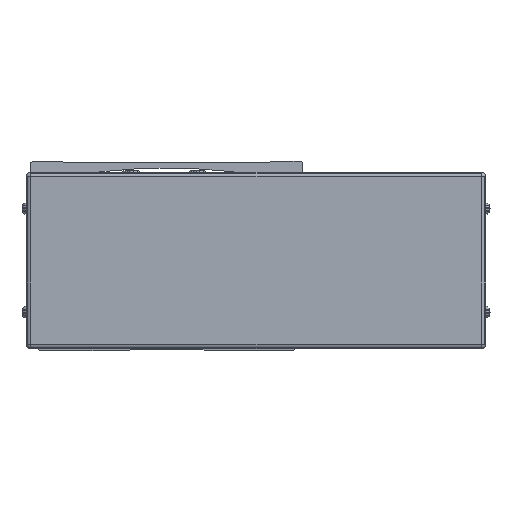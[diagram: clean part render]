
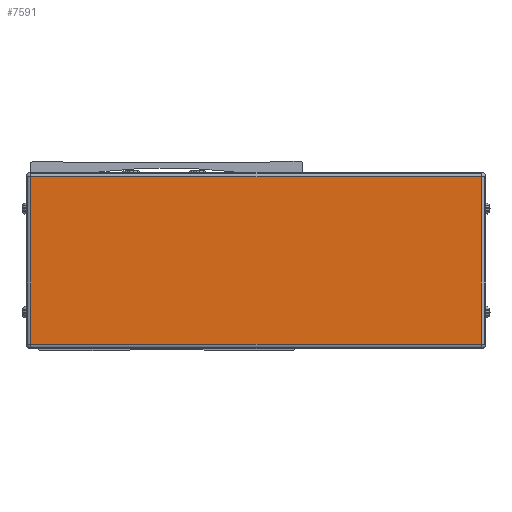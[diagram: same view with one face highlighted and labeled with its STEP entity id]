
A CAD part, front view. The second image highlights one B-rep face of the part: STEP entity #7591.
In plain terms, the highlighted planar face has unit normal (0, -1, 0).
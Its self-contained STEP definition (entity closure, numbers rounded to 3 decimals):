
#7591=ADVANCED_FACE('',(#15407),#15408,.T.);
#15407=FACE_OUTER_BOUND('',#24934,.T.);
#15408=PLANE('',#24935);
#24934=EDGE_LOOP('',(#46674,#46675,#46676,#46677));
#24935=AXIS2_PLACEMENT_3D('',#46678,#46679,#46680);
#46674=ORIENTED_EDGE('',*,*,#52987,.F.);
#46675=ORIENTED_EDGE('',*,*,#56786,.F.);
#46676=ORIENTED_EDGE('',*,*,#57786,.F.);
#46677=ORIENTED_EDGE('',*,*,#56386,.F.);
#46678=CARTESIAN_POINT('',(-259.5,-463.778,-8.));
#46679=DIRECTION('',(0.,-1.0,0.));
#46680=DIRECTION('',(1.0,0.,0.));
#52987=EDGE_CURVE('',#59837,#63264,#64820,.T.);
#56386=EDGE_CURVE('',#63264,#69657,#69658,.T.);
#56786=EDGE_CURVE('',#64184,#59837,#70145,.T.);
#57786=EDGE_CURVE('',#69657,#64184,#71286,.T.);
#59837=VERTEX_POINT('',#73893);
#63264=VERTEX_POINT('',#78848);
#64184=VERTEX_POINT('',#80119);
#64820=LINE('',#81057,#81058);
#69657=VERTEX_POINT('',#88070);
#69658=LINE('',#88071,#88072);
#70145=LINE('',#88883,#88884);
#71286=LINE('',#90565,#90566);
#73893=CARTESIAN_POINT('',(-157.3,-463.778,30.));
#78848=CARTESIAN_POINT('',(-157.3,-463.778,-46.));
#80119=CARTESIAN_POINT('',(-361.7,-463.778,30.));
#81057=CARTESIAN_POINT('',(-157.3,-463.778,-8.));
#81058=VECTOR('',#96165,10.0);
#88070=CARTESIAN_POINT('',(-361.7,-463.778,-46.));
#88071=CARTESIAN_POINT('',(-259.5,-463.778,-46.));
#88072=VECTOR('',#100246,10.0);
#88883=CARTESIAN_POINT('',(-259.5,-463.778,30.));
#88884=VECTOR('',#100596,10.0);
#90565=CARTESIAN_POINT('',(-361.7,-463.778,-8.));
#90566=VECTOR('',#101547,10.0);
#96165=DIRECTION('',(0.0,0.,-1.0));
#100246=DIRECTION('',(-1.0,0.,0.));
#100596=DIRECTION('',(1.0,0.,0.));
#101547=DIRECTION('',(0.0,0.,1.0));
